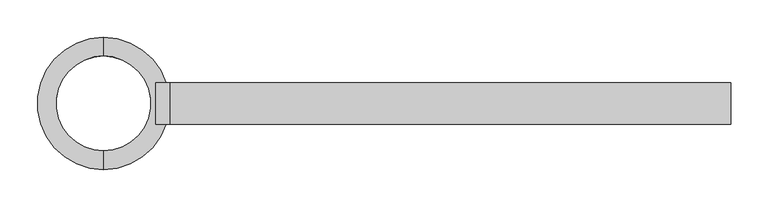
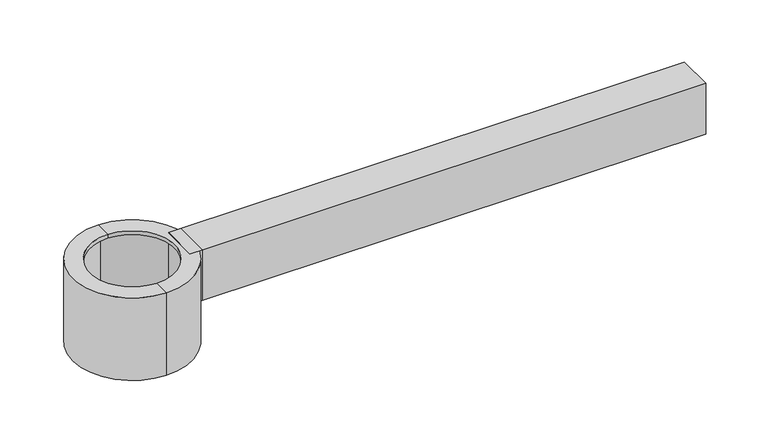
"""IFC4 building model written with IfcOpenShell, lengths in millimetres: light fixture geometry, CANDELA_CLF : 1XCLF04."""

from ifc_helpers import new_model, si_unit, frame, origin, origin_with_axes, place, context, project, spatial, polyline, circle_curve, outline, extrude, source, transform, mapped, element, save
from ifc_brep_helpers import plane_surface, cylinder_surface, revolved_surface, advanced_brep


def light_fixture_b12cba50(model_context):
    return source(origin(), model_context, "Body", "SolidModel", [
        advanced_brep(
        [(0.0, -88.3, -50.0), (0.0, -63.5, -50.0), (0.0, -63.5, -44.0), (0.0, -82.3, -44.0), (0.0, -82.3, 74.0), (0.0, -63.5, 74.0), (0.0, -63.5, 80.0), (0.0, -88.3, 80.0), (0.0, 88.3, -50.0), (0.0, 88.3, 80.0), (0.0, 63.5, 80.0), (0.0, 63.5, 74.0), (0.0, 82.3, 74.0), (0.0, 82.3, -44.0), (0.0, 63.5, -44.0), (0.0, 63.5, -50.0)],
        [
            (0, 1),
            (1, 2),
            (2, 3),
            (3, 4),
            (4, 5),
            (5, 6),
            (6, 7),
            (7, 0),
            (8, 9),
            (9, 10),
            (10, 11),
            (11, 12),
            (12, 13),
            (13, 14),
            (14, 15),
            (15, 8),
            (15, 1, circle_curve(frame((0.0, 0.0, -50.0), z_axis=(0.0, 0.0, 1.0), x_axis=(0.0, -1.0, 0.0)), 63.5)),
            (0, 8, circle_curve(frame((0.0, 0.0, -50.0), z_axis=(0.0, 0.0, -1.0), x_axis=(0.0, -1.0, 0.0)), 88.3)),
            (14, 2, circle_curve(frame((0.0, 0.0, -44.0), z_axis=(0.0, 0.0, 1.0), x_axis=(0.0, -1.0, 0.0)), 63.5)),
            (13, 3, circle_curve(frame((0.0, 0.0, -44.0), z_axis=(0.0, 0.0, 1.0), x_axis=(0.0, -1.0, 0.0)), 82.3)),
            (12, 4, circle_curve(frame((0.0, 0.0, 74.0), z_axis=(0.0, 0.0, 1.0), x_axis=(0.0, -1.0, 0.0)), 82.3)),
            (11, 5, circle_curve(frame((0.0, 0.0, 74.0), z_axis=(0.0, 0.0, 1.0), x_axis=(0.0, -1.0, 0.0)), 63.5)),
            (10, 6, circle_curve(frame((0.0, 0.0, 80.0), z_axis=(0.0, 0.0, 1.0), x_axis=(0.0, -1.0, 0.0)), 63.5)),
            (9, 7, circle_curve(frame((0.0, 0.0, 80.0), z_axis=(0.0, 0.0, 1.0), x_axis=(0.0, -1.0, 0.0)), 88.3)),
        ],
        [
            plane_surface(frame((0.0, 0.0, -520.9920377), z_axis=(1.0, 0.0, 0.0), x_axis=(0.0, -1.0, 0.0))),
            plane_surface(frame((0.0, 0.0, -520.9920377), z_axis=(1.0, 0.0, 0.0), x_axis=(0.0, 1.0, 0.0))),
            plane_surface(frame((0.0, 0.0, -50.0), z_axis=(0.0, 0.0, -1.0), x_axis=(0.0, -1.0, 0.0))),
            revolved_surface(polyline([(0.0, -63.5, -50.0), (0.0, -63.5, -44.0)]), (0.0, 0.0, -520.9920377), (0.0, 0.0, -1.0)),
            plane_surface(frame((0.0, 0.0, -44.0), z_axis=(0.0, 0.0, 1.0), x_axis=(0.0, -1.0, 0.0))),
            revolved_surface(polyline([(0.0, -82.3, -44.0), (0.0, -82.3, 74.0)]), (0.0, 0.0, -520.9920377), (0.0, 0.0, -1.0)),
            plane_surface(frame((0.0, 0.0, 74.0), z_axis=(0.0, 0.0, -1.0), x_axis=(0.0, -1.0, 0.0))),
            revolved_surface(polyline([(0.0, -63.5, 74.0), (0.0, -63.5, 80.0)]), (0.0, 0.0, -520.9920377), (0.0, 0.0, -1.0)),
            plane_surface(frame((0.0, 0.0, 80.0), z_axis=(0.0, 0.0, 1.0), x_axis=(0.0, -1.0, 0.0))),
            cylinder_surface(frame((0.0, 0.0, -520.9920377), z_axis=(0.0, 0.0, -1.0), x_axis=(0.0, -1.0, 0.0)), 88.3),
        ],
        [
            (0, [[1, 2, 3, 4, 5, 6, 7, 8]]),
            (1, [[9, 10, 11, 12, 13, 14, 15, 16]]),
            (2, [[17, -1, 18, -16]]),
            (3, [[19, -2, -17, -15]]),
            (4, [[20, -3, -19, -14]]),
            (5, [[21, -4, -20, -13]]),
            (6, [[22, -5, -21, -12]]),
            (7, [[23, -6, -22, -11]]),
            (8, [[24, -7, -23, -10]]),
            (9, [[-18, -8, -24, -9]]),
        ],
    ),
        extrude(outline(polyline([(88.3, 27.5), (88.3, -27.5), (69.9764576, -27.5), (69.9764576, 27.5), (88.3, 27.5)])), origin_with_axes(), (0.0, 0.0, 1.0), 80.0),
        advanced_brep(
        [(0.0, -88.3, -50.0), (0.0, -88.3, 80.0), (0.0, -63.5, 80.0), (0.0, -63.5, 74.0), (0.0, -82.3, 74.0), (0.0, -82.3, -44.0), (0.0, -63.5, -44.0), (0.0, -63.5, -50.0), (0.0, 88.3, -50.0), (0.0, 63.5, -50.0), (0.0, 63.5, -44.0), (0.0, 82.3, -44.0), (0.0, 82.3, 74.0), (0.0, 63.5, 74.0), (0.0, 63.5, 80.0), (0.0, 88.3, 80.0)],
        [
            (0, 1),
            (1, 2),
            (2, 3),
            (3, 4),
            (4, 5),
            (5, 6),
            (6, 7),
            (7, 0),
            (8, 9),
            (9, 10),
            (10, 11),
            (11, 12),
            (12, 13),
            (13, 14),
            (14, 15),
            (15, 8),
            (8, 0, circle_curve(frame((0.0, 0.0, -50.0), z_axis=(0.0, 0.0, -1.0), x_axis=(0.0, -1.0, 0.0)), 88.3)),
            (7, 9, circle_curve(frame((0.0, 0.0, -50.0), z_axis=(0.0, 0.0, 1.0), x_axis=(0.0, -1.0, 0.0)), 63.5)),
            (6, 10, circle_curve(frame((0.0, 0.0, -44.0), z_axis=(0.0, 0.0, 1.0), x_axis=(0.0, -1.0, 0.0)), 63.5)),
            (5, 11, circle_curve(frame((0.0, 0.0, -44.0), z_axis=(0.0, 0.0, 1.0), x_axis=(0.0, -1.0, 0.0)), 82.3)),
            (4, 12, circle_curve(frame((0.0, 0.0, 74.0), z_axis=(0.0, 0.0, 1.0), x_axis=(0.0, -1.0, 0.0)), 82.3)),
            (3, 13, circle_curve(frame((0.0, 0.0, 74.0), z_axis=(0.0, 0.0, 1.0), x_axis=(0.0, -1.0, 0.0)), 63.5)),
            (2, 14, circle_curve(frame((0.0, 0.0, 80.0), z_axis=(0.0, 0.0, 1.0), x_axis=(0.0, -1.0, 0.0)), 63.5)),
            (1, 15, circle_curve(frame((0.0, 0.0, 80.0), z_axis=(0.0, 0.0, 1.0), x_axis=(0.0, -1.0, 0.0)), 88.3)),
        ],
        [
            plane_surface(frame((0.0, 0.0, -520.9920377), z_axis=(-1.0, 0.0, 0.0), x_axis=(0.0, -1.0, 0.0))),
            plane_surface(frame((0.0, 0.0, -520.9920377), z_axis=(-1.0, 0.0, 0.0), x_axis=(0.0, 1.0, 0.0))),
            plane_surface(frame((0.0, 0.0, -50.0), z_axis=(0.0, 0.0, -1.0), x_axis=(0.0, -1.0, 0.0))),
            revolved_surface(polyline([(0.0, -63.5, -44.0), (0.0, -63.5, -50.0)]), (0.0, 0.0, -520.9920377), (0.0, 0.0, 1.0)),
            plane_surface(frame((0.0, 0.0, -44.0), z_axis=(0.0, 0.0, 1.0), x_axis=(0.0, -1.0, 0.0))),
            revolved_surface(polyline([(0.0, -82.3, 74.0), (0.0, -82.3, -44.0)]), (0.0, 0.0, -520.9920377), (0.0, 0.0, 1.0)),
            plane_surface(frame((0.0, 0.0, 74.0), z_axis=(0.0, 0.0, -1.0), x_axis=(0.0, -1.0, 0.0))),
            revolved_surface(polyline([(0.0, -63.5, 80.0), (0.0, -63.5, 74.0)]), (0.0, 0.0, -520.9920377), (0.0, 0.0, 1.0)),
            plane_surface(frame((0.0, 0.0, 80.0), z_axis=(0.0, 0.0, 1.0), x_axis=(0.0, -1.0, 0.0))),
            cylinder_surface(frame((0.0, 0.0, -520.9920377), z_axis=(0.0, 0.0, 1.0), x_axis=(0.0, -1.0, 0.0)), 88.3),
        ],
        [
            (0, [[1, 2, 3, 4, 5, 6, 7, 8]]),
            (1, [[9, 10, 11, 12, 13, 14, 15, 16]]),
            (2, [[17, -8, 18, -9]]),
            (3, [[-18, -7, 19, -10]]),
            (4, [[-19, -6, 20, -11]]),
            (5, [[-20, -5, 21, -12]]),
            (6, [[-21, -4, 22, -13]]),
            (7, [[-22, -3, 23, -14]]),
            (8, [[-23, -2, 24, -15]]),
            (9, [[-24, -1, -17, -16]]),
        ],
    ),
        extrude(outline(polyline([(27.5, 0.0), (-27.5, 0.0), (-27.5, 80.0), (27.5, 80.0), (27.5, 0.0)]), holes=[polyline([(-21.5, 6.0), (21.5, 6.0), (21.5, 74.0), (-21.5, 74.0), (-21.5, 6.0)])]), frame((88.3, 0.0, 0.0), z_axis=(1.0, 0.0, 0.0), x_axis=(0.0, 1.0, 0.0)), (0.0, 0.0, 1.0), 750.0),
    ])


if __name__ == "__main__":
    model = new_model("IFC4")
    model_context = context("Model", 3, world=origin())
    ifc_project = project(units=[si_unit("LENGTHUNIT", "METRE", prefix="MILLI")], contexts=[model_context])
    site = spatial("IfcSite", under=ifc_project)
    building = spatial("IfcBuilding", under=site)
    placement = place(None, origin())
    light_fixture_shape = light_fixture_b12cba50(model_context)
    element("IfcLightFixture", 1, ObjectType="CANDELA_CLF : 1XCLF04", at=placement, inside=building, context=model_context, shape_type="MappedRepresentation", body=[
        mapped(light_fixture_shape, transform((0.0, 0.0, 0.0), x_axis=(1.0, 0.0, 0.0), y_axis=(0.0, 1.0, 0.0), z_axis=(0.0, 0.0, 1.0))),
    ])
    save(model, "model.ifc")
